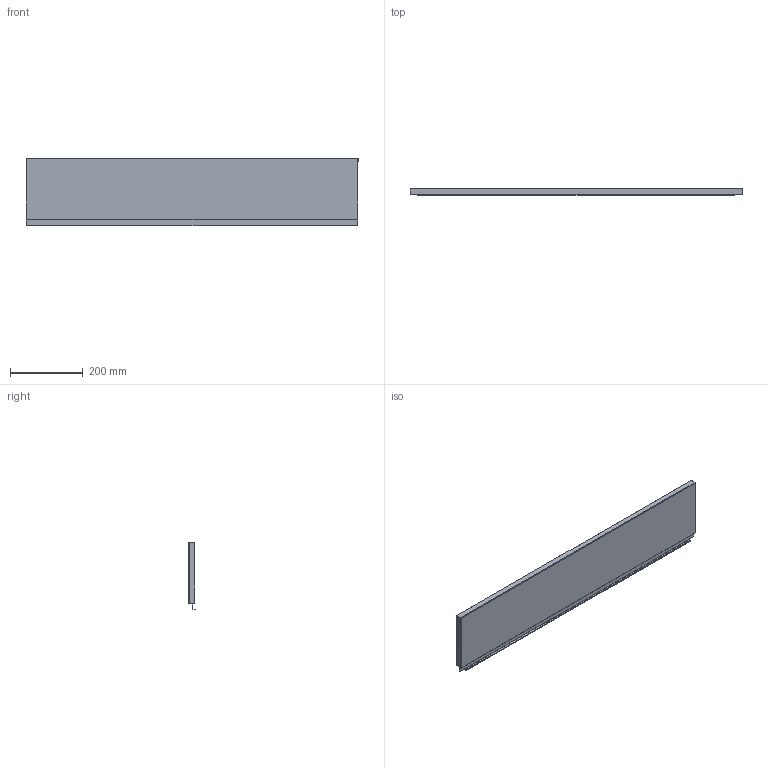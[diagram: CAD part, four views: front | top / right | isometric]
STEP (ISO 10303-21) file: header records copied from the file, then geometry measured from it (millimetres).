
FILE_DESCRIPTION (( 'STEP AP214' ), '1' );
FILE_NAME ('_STRW_H186_KAB_1000.step', '2010-08-24T14:40:30', ( 'grass' ), ( '' ), 'SwSTEP 2.0', 'SolidWorks 2009', '' );
FILE_SCHEMA (( 'AUTOMOTIVE_DESIGN' ));
Length unit declared in the file: millimetre
Products named in the file (1): _STRW_H186_KAB_1000
Bounding box: 910 x 17 x 186.14 mm (x, y, z)
Volume: 160179 mm3; surface area: 402322.8 mm2
Topology: 1 solids, 1 shells, 76 faces, 214 edges, 140 vertices
Faces by surface type: plane 54, cylinder 22
Entity records: 2472 total; most frequent: CARTESIAN_POINT 431, ORIENTED_EDGE 428, DIRECTION 412, EDGE_CURVE 214, LINE 170, VECTOR 170, VERTEX_POINT 140, AXIS2_PLACEMENT_3D 121
